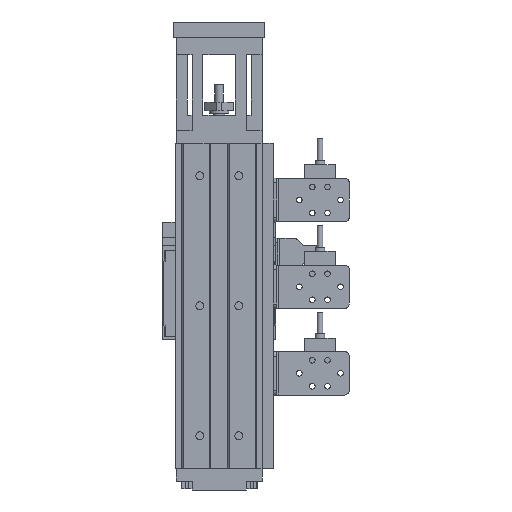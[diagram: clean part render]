
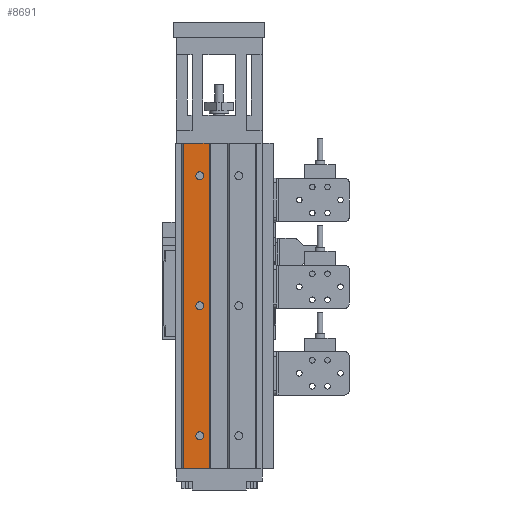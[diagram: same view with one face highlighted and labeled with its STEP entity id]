
A CAD part, front view. The second image highlights one B-rep face of the part: STEP entity #8691.
In plain terms, the highlighted planar face has unit normal (0, -1, 0).
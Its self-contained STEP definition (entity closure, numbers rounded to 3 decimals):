
#570 = VECTOR ( 'NONE', #10569, 1000. ) ;
#1107 = CARTESIAN_POINT ( 'NONE',  ( -4.586, -4., -75. ) ) ;
#1339 = CARTESIAN_POINT ( 'NONE',  ( -16.586, -4., 75. ) ) ;
#1833 = VECTOR ( 'NONE', #17547, 1000. ) ;
#1926 = ORIENTED_EDGE ( 'NONE', *, *, #22490, .F. ) ;
#2383 = CARTESIAN_POINT ( 'NONE',  ( -9., -4., -1.8 ) ) ;
#2416 = EDGE_LOOP ( 'NONE', ( #23536, #7288 ) ) ;
#2771 = CIRCLE ( 'NONE', #33539, 1.8 ) ;
#3643 = CIRCLE ( 'NONE', #14206, 1.8 ) ;
#3688 = DIRECTION ( 'NONE',  ( 0., 0., -1. ) ) ;
#4067 = AXIS2_PLACEMENT_3D ( 'NONE', #25694, #4612, #20851 ) ;
#4432 = DIRECTION ( 'NONE',  ( 0., 0., 1. ) ) ;
#4442 = VERTEX_POINT ( 'NONE', #32133 ) ;
#4585 = CARTESIAN_POINT ( 'NONE',  ( -9., -4., -58.2 ) ) ;
#4612 = DIRECTION ( 'NONE',  ( 0., 1., 0. ) ) ;
#6005 = CARTESIAN_POINT ( 'NONE',  ( -9., -4., 0. ) ) ;
#7129 = EDGE_CURVE ( 'NONE', #4442, #13685, #22358, .T. ) ;
#7288 = ORIENTED_EDGE ( 'NONE', *, *, #26139, .T. ) ;
#7566 = DIRECTION ( 'NONE',  ( 1., 0., 0. ) ) ;
#7687 = DIRECTION ( 'NONE',  ( 0., 1., 0. ) ) ;
#8663 = VERTEX_POINT ( 'NONE', #27708 ) ;
#8691 = ADVANCED_FACE ( 'NONE', ( #26913, #22068, #17254, #12447 ), #9434, .F. ) ;
#8779 = CARTESIAN_POINT ( 'NONE',  ( -9., -4., -60. ) ) ;
#8827 = AXIS2_PLACEMENT_3D ( 'NONE', #37088, #20671, #4432 ) ;
#9288 = VERTEX_POINT ( 'NONE', #24097 ) ;
#9434 = PLANE ( 'NONE',  #4067 ) ;
#10069 = AXIS2_PLACEMENT_3D ( 'NONE', #8779, #13580, #34823 ) ;
#10353 = CARTESIAN_POINT ( 'NONE',  ( -9., -4., 0. ) ) ;
#10569 = DIRECTION ( 'NONE',  ( 1., 0., 0. ) ) ;
#10832 = DIRECTION ( 'NONE',  ( 0., 0., 1. ) ) ;
#10840 = DIRECTION ( 'NONE',  ( 0., 0., 1. ) ) ;
#12447 = FACE_OUTER_BOUND ( 'NONE', #35384, .T. ) ;
#12510 = EDGE_CURVE ( 'NONE', #4442, #23315, #15396, .T. ) ;
#13580 = DIRECTION ( 'NONE',  ( 0., 1., 0. ) ) ;
#13685 = VERTEX_POINT ( 'NONE', #13844 ) ;
#13844 = CARTESIAN_POINT ( 'NONE',  ( -16.586, -4., -75. ) ) ;
#14206 = AXIS2_PLACEMENT_3D ( 'NONE', #23986, #7687, #28815 ) ;
#14354 = ORIENTED_EDGE ( 'NONE', *, *, #20148, .T. ) ;
#14881 = CIRCLE ( 'NONE', #21568, 1.8 ) ;
#15179 = DIRECTION ( 'NONE',  ( 0., 0., 1. ) ) ;
#15396 = LINE ( 'NONE', #31730, #570 ) ;
#15503 = CIRCLE ( 'NONE', #8827, 1.8 ) ;
#15657 = CARTESIAN_POINT ( 'NONE',  ( -9., -4., -60. ) ) ;
#16868 = ORIENTED_EDGE ( 'NONE', *, *, #28052, .T. ) ;
#17254 = FACE_BOUND ( 'NONE', #2416, .T. ) ;
#17472 = EDGE_CURVE ( 'NONE', #23973, #35013, #14881, .T. ) ;
#17484 = ORIENTED_EDGE ( 'NONE', *, *, #17472, .T. ) ;
#17547 = DIRECTION ( 'NONE',  ( 0., 0., -1. ) ) ;
#18209 = VECTOR ( 'NONE', #7566, 1000. ) ;
#18329 = CARTESIAN_POINT ( 'NONE',  ( -9., -4., 61.8 ) ) ;
#19210 = AXIS2_PLACEMENT_3D ( 'NONE', #10353, #31504, #15179 ) ;
#19271 = ORIENTED_EDGE ( 'NONE', *, *, #7129, .T. ) ;
#19333 = ORIENTED_EDGE ( 'NONE', *, *, #22741, .T. ) ;
#19925 = CARTESIAN_POINT ( 'NONE',  ( -4.586, -4., 75. ) ) ;
#20148 = EDGE_CURVE ( 'NONE', #25057, #8663, #2771, .T. ) ;
#20671 = DIRECTION ( 'NONE',  ( 0., 1., 0. ) ) ;
#20851 = DIRECTION ( 'NONE',  ( 0., 0., 1. ) ) ;
#21568 = AXIS2_PLACEMENT_3D ( 'NONE', #15657, #32025, #10840 ) ;
#21921 = CARTESIAN_POINT ( 'NONE',  ( -9., -4., -61.8 ) ) ;
#22054 = LINE ( 'NONE', #28717, #18209 ) ;
#22068 = FACE_BOUND ( 'NONE', #34833, .T. ) ;
#22358 = LINE ( 'NONE', #1339, #1833 ) ;
#22456 = EDGE_LOOP ( 'NONE', ( #16868, #17484 ) ) ;
#22490 = EDGE_CURVE ( 'NONE', #23315, #35369, #36345, .T. ) ;
#22741 = EDGE_CURVE ( 'NONE', #8663, #25057, #25911, .T. ) ;
#22941 = EDGE_CURVE ( 'NONE', #23026, #9288, #15503, .T. ) ;
#23026 = VERTEX_POINT ( 'NONE', #18329 ) ;
#23315 = VERTEX_POINT ( 'NONE', #31650 ) ;
#23536 = ORIENTED_EDGE ( 'NONE', *, *, #22941, .T. ) ;
#23973 = VERTEX_POINT ( 'NONE', #21921 ) ;
#23986 = CARTESIAN_POINT ( 'NONE',  ( -9., -4., 60. ) ) ;
#24097 = CARTESIAN_POINT ( 'NONE',  ( -9., -4., 58.2 ) ) ;
#24518 = EDGE_CURVE ( 'NONE', #13685, #35369, #22054, .T. ) ;
#25057 = VERTEX_POINT ( 'NONE', #2383 ) ;
#25694 = CARTESIAN_POINT ( 'NONE',  ( -16.586, -4., 75. ) ) ;
#25911 = CIRCLE ( 'NONE', #19210, 1.8 ) ;
#26139 = EDGE_CURVE ( 'NONE', #9288, #23026, #3643, .T. ) ;
#26179 = VECTOR ( 'NONE', #3688, 1000. ) ;
#26913 = FACE_BOUND ( 'NONE', #22456, .T. ) ;
#27118 = DIRECTION ( 'NONE',  ( 0., 1., 0. ) ) ;
#27708 = CARTESIAN_POINT ( 'NONE',  ( -9., -4., 1.8 ) ) ;
#28052 = EDGE_CURVE ( 'NONE', #35013, #23973, #31592, .T. ) ;
#28717 = CARTESIAN_POINT ( 'NONE',  ( -16.586, -4., -75. ) ) ;
#28815 = DIRECTION ( 'NONE',  ( 0., 0., 1. ) ) ;
#30803 = ORIENTED_EDGE ( 'NONE', *, *, #24518, .T. ) ;
#31504 = DIRECTION ( 'NONE',  ( 0., 1., 0. ) ) ;
#31592 = CIRCLE ( 'NONE', #10069, 1.8 ) ;
#31650 = CARTESIAN_POINT ( 'NONE',  ( -4.586, -4., 75. ) ) ;
#31730 = CARTESIAN_POINT ( 'NONE',  ( -16.586, -4., 75. ) ) ;
#32025 = DIRECTION ( 'NONE',  ( 0., 1., 0. ) ) ;
#32133 = CARTESIAN_POINT ( 'NONE',  ( -16.586, -4., 75. ) ) ;
#33318 = ORIENTED_EDGE ( 'NONE', *, *, #12510, .F. ) ;
#33539 = AXIS2_PLACEMENT_3D ( 'NONE', #6005, #27118, #10832 ) ;
#34823 = DIRECTION ( 'NONE',  ( 0., 0., 1. ) ) ;
#34833 = EDGE_LOOP ( 'NONE', ( #19333, #14354 ) ) ;
#35013 = VERTEX_POINT ( 'NONE', #4585 ) ;
#35369 = VERTEX_POINT ( 'NONE', #1107 ) ;
#35384 = EDGE_LOOP ( 'NONE', ( #30803, #1926, #33318, #19271 ) ) ;
#36345 = LINE ( 'NONE', #19925, #26179 ) ;
#37088 = CARTESIAN_POINT ( 'NONE',  ( -9., -4., 60. ) ) ;
